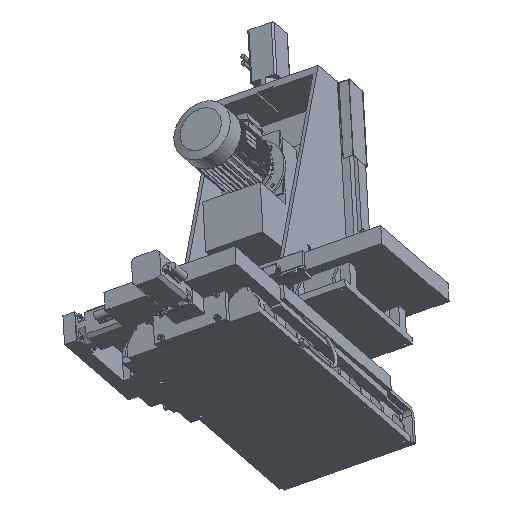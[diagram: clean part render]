
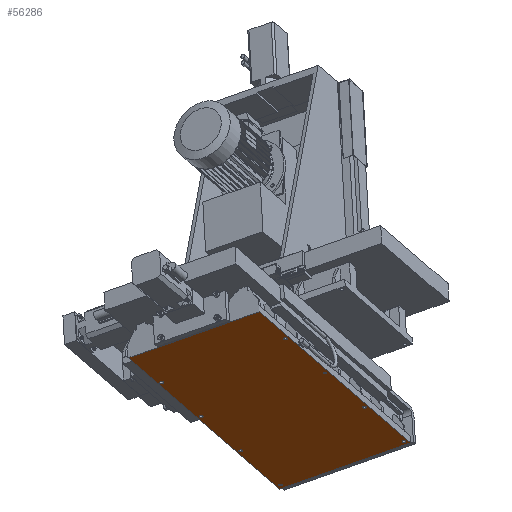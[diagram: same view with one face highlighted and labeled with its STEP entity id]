
A CAD part, front view. The second image highlights one B-rep face of the part: STEP entity #56286.
In plain terms, the highlighted planar face has unit normal (0.048, -0.53, -0.847).
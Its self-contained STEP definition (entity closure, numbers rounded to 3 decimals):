
#38639=CARTESIAN_POINT('',(-643.858,736.35,-56.914));
#38640=VERTEX_POINT('',#38639);
#38647=CARTESIAN_POINT('',(-23.852,442.918,161.923));
#38648=VERTEX_POINT('',#38647);
#38649=CARTESIAN_POINT('',(-643.858,736.35,-56.914));
#38650=DIRECTION('',(0.861,-0.408,0.304));
#38651=VECTOR('',#38650,720.0);
#38652=LINE('',#38649,#38651);
#38653=EDGE_CURVE('',#38640,#38648,#38652,.T.);
#40306=CARTESIAN_POINT('',(694.867,1498.749,-458.612));
#40307=VERTEX_POINT('',#40306);
#40314=CARTESIAN_POINT('',(74.861,1792.181,-677.449));
#40315=VERTEX_POINT('',#40314);
#40316=CARTESIAN_POINT('',(74.861,1792.181,-677.449));
#40317=DIRECTION('',(0.861,-0.408,0.304));
#40318=VECTOR('',#40317,720.);
#40319=LINE('',#40316,#40318);
#40320=EDGE_CURVE('',#40315,#40307,#40319,.T.);
#52756=CARTESIAN_POINT('',(-477.382,932.825,-170.535));
#52757=VERTEX_POINT('',#52756);
#52758=CARTESIAN_POINT('',(-484.917,936.391,-173.195));
#52759=DIRECTION('',(-0.048,0.53,0.847));
#52760=DIRECTION('',(-0.861,0.408,-0.304));
#52761=AXIS2_PLACEMENT_3D('',#52758,#52759,#52760);
#52762=CIRCLE('',#52761,8.75);
#52763=EDGE_CURVE('',#52757,#52757,#52762,.T.);
#52805=CARTESIAN_POINT('',(-290.11,1207.936,-332.224));
#52806=VERTEX_POINT('',#52805);
#52807=CARTESIAN_POINT('',(-297.645,1211.502,-334.883));
#52808=DIRECTION('',(-0.048,0.53,0.847));
#52809=DIRECTION('',(-0.861,0.408,-0.304));
#52810=AXIS2_PLACEMENT_3D('',#52807,#52808,#52809);
#52811=CIRCLE('',#52810,8.75);
#52812=EDGE_CURVE('',#52806,#52806,#52811,.T.);
#52854=CARTESIAN_POINT('',(-102.838,1483.047,-493.912));
#52855=VERTEX_POINT('',#52854);
#52856=CARTESIAN_POINT('',(-110.373,1486.613,-496.572));
#52857=DIRECTION('',(-0.048,0.53,0.847));
#52858=DIRECTION('',(-0.861,0.408,-0.304));
#52859=AXIS2_PLACEMENT_3D('',#52856,#52857,#52858);
#52860=CIRCLE('',#52859,8.75);
#52861=EDGE_CURVE('',#52855,#52855,#52860,.T.);
#52903=CARTESIAN_POINT('',(84.434,1758.158,-655.601));
#52904=VERTEX_POINT('',#52903);
#52905=CARTESIAN_POINT('',(76.899,1761.724,-658.261));
#52906=DIRECTION('',(-0.048,0.53,0.847));
#52907=DIRECTION('',(-0.861,0.408,-0.304));
#52908=AXIS2_PLACEMENT_3D('',#52905,#52906,#52907);
#52909=CIRCLE('',#52908,8.75);
#52910=EDGE_CURVE('',#52904,#52904,#52909,.T.);
#52952=CARTESIAN_POINT('',(669.995,1481.028,-448.921));
#52953=VERTEX_POINT('',#52952);
#52954=CARTESIAN_POINT('',(662.461,1484.594,-451.581));
#52955=DIRECTION('',(-0.048,0.53,0.847));
#52956=DIRECTION('',(-0.861,0.408,-0.304));
#52957=AXIS2_PLACEMENT_3D('',#52954,#52955,#52956);
#52958=CIRCLE('',#52957,8.75);
#52959=EDGE_CURVE('',#52953,#52953,#52958,.T.);
#53001=CARTESIAN_POINT('',(482.724,1205.917,-287.233));
#53002=VERTEX_POINT('',#53001);
#53003=CARTESIAN_POINT('',(475.189,1209.483,-289.892));
#53004=DIRECTION('',(-0.048,0.53,0.847));
#53005=DIRECTION('',(-0.861,0.408,-0.304));
#53006=AXIS2_PLACEMENT_3D('',#53003,#53004,#53005);
#53007=CIRCLE('',#53006,8.75);
#53008=EDGE_CURVE('',#53002,#53002,#53007,.T.);
#53050=CARTESIAN_POINT('',(295.452,930.806,-125.544));
#53051=VERTEX_POINT('',#53050);
#53052=CARTESIAN_POINT('',(287.917,934.372,-128.203));
#53053=DIRECTION('',(-0.048,0.53,0.847));
#53054=DIRECTION('',(-0.861,0.408,-0.304));
#53055=AXIS2_PLACEMENT_3D('',#53052,#53053,#53054);
#53056=CIRCLE('',#53055,8.75);
#53057=EDGE_CURVE('',#53051,#53051,#53056,.T.);
#53099=CARTESIAN_POINT('',(108.18,655.695,36.145));
#53100=VERTEX_POINT('',#53099);
#53101=CARTESIAN_POINT('',(100.645,659.261,33.485));
#53102=DIRECTION('',(-0.048,0.53,0.847));
#53103=DIRECTION('',(-0.861,0.408,-0.304));
#53104=AXIS2_PLACEMENT_3D('',#53101,#53102,#53103);
#53105=CIRCLE('',#53104,8.75);
#53106=EDGE_CURVE('',#53100,#53100,#53105,.T.);
#56045=CARTESIAN_POINT('',(-23.852,442.918,161.923));
#56046=DIRECTION('',(0.506,0.744,-0.437));
#56047=VECTOR('',#56046,1420.);
#56048=LINE('',#56045,#56047);
#56049=EDGE_CURVE('',#38648,#40307,#56048,.T.);
#56240=CARTESIAN_POINT('',(-643.858,736.35,-56.914));
#56241=DIRECTION('',(0.506,0.744,-0.437));
#56242=VECTOR('',#56241,1420.);
#56243=LINE('',#56240,#56242);
#56244=EDGE_CURVE('',#38640,#40315,#56243,.T.);
#56251=CARTESIAN_POINT('',(-643.858,736.35,-56.914));
#56252=DIRECTION('',(0.048,-0.53,-0.847));
#56253=DIRECTION('',(-0.506,-0.744,0.437));
#56254=AXIS2_PLACEMENT_3D('',#56251,#56252,#56253);
#56255=PLANE('',#56254);
#56256=ORIENTED_EDGE('',*,*,#40320,.T.);
#56257=ORIENTED_EDGE('',*,*,#56049,.F.);
#56258=ORIENTED_EDGE('',*,*,#38653,.F.);
#56259=ORIENTED_EDGE('',*,*,#56244,.T.);
#56260=EDGE_LOOP('',(#56256,#56257,#56258,#56259));
#56261=FACE_OUTER_BOUND('',#56260,.T.);
#56262=ORIENTED_EDGE('',*,*,#52763,.T.);
#56263=EDGE_LOOP('',(#56262));
#56264=FACE_BOUND('',#56263,.T.);
#56265=ORIENTED_EDGE('',*,*,#52812,.T.);
#56266=EDGE_LOOP('',(#56265));
#56267=FACE_BOUND('',#56266,.T.);
#56268=ORIENTED_EDGE('',*,*,#52861,.T.);
#56269=EDGE_LOOP('',(#56268));
#56270=FACE_BOUND('',#56269,.T.);
#56271=ORIENTED_EDGE('',*,*,#52910,.T.);
#56272=EDGE_LOOP('',(#56271));
#56273=FACE_BOUND('',#56272,.T.);
#56274=ORIENTED_EDGE('',*,*,#52959,.T.);
#56275=EDGE_LOOP('',(#56274));
#56276=FACE_BOUND('',#56275,.T.);
#56277=ORIENTED_EDGE('',*,*,#53008,.T.);
#56278=EDGE_LOOP('',(#56277));
#56279=FACE_BOUND('',#56278,.T.);
#56280=ORIENTED_EDGE('',*,*,#53057,.T.);
#56281=EDGE_LOOP('',(#56280));
#56282=FACE_BOUND('',#56281,.T.);
#56283=ORIENTED_EDGE('',*,*,#53106,.T.);
#56284=EDGE_LOOP('',(#56283));
#56285=FACE_BOUND('',#56284,.T.);
#56286=ADVANCED_FACE('',(#56261,#56264,#56267,#56270,#56273,#56276,#56279,#56282,#56285),#56255,.T.);
